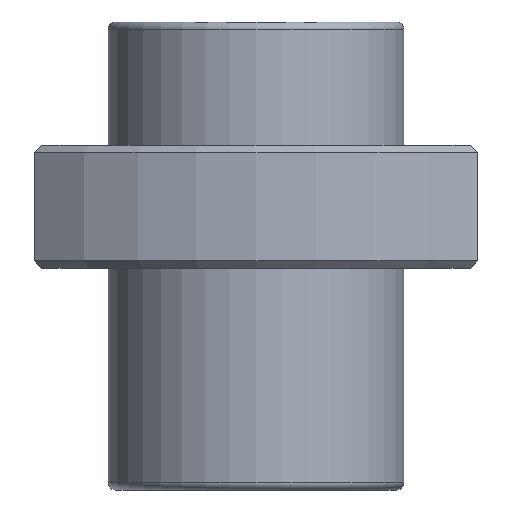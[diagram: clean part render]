
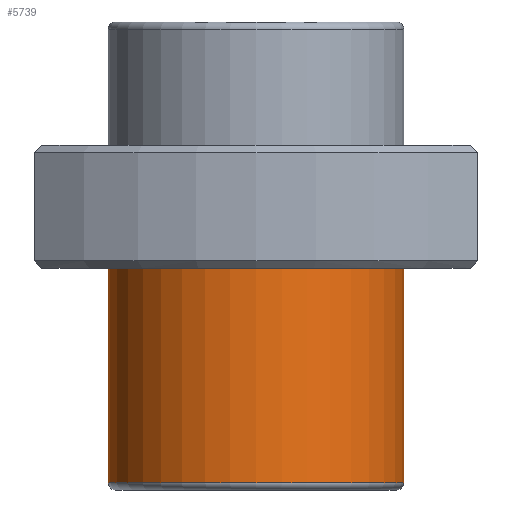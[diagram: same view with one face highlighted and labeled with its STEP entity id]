
A CAD part, front view. The second image highlights one B-rep face of the part: STEP entity #5739.
In plain terms, the highlighted cylindrical face has radius 6 mm (diameter 12 mm), a full revolution.
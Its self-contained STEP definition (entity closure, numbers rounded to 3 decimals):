
#96=CYLINDRICAL_SURFACE('',#6110,6.);
#124=CIRCLE('',#6111,6.);
#125=CIRCLE('',#6112,6.);
#1721=ORIENTED_EDGE('',*,*,#3381,.T.);
#1722=ORIENTED_EDGE('',*,*,#3382,.T.);
#3381=EDGE_CURVE('',#4210,#4210,#124,.T.);
#3382=EDGE_CURVE('',#4211,#4211,#125,.F.);
#4210=VERTEX_POINT('',#9075);
#4211=VERTEX_POINT('',#9077);
#4698=EDGE_LOOP('',(#1721));
#4699=EDGE_LOOP('',(#1722));
#5113=FACE_BOUND('',#4698,.T.);
#5114=FACE_BOUND('',#4699,.T.);
#5739=ADVANCED_FACE('',(#5113,#5114),#96,.T.);
#6110=AXIS2_PLACEMENT_3D('',#9073,#6636,#6637);
#6111=AXIS2_PLACEMENT_3D('',#9074,#6638,#6639);
#6112=AXIS2_PLACEMENT_3D('',#9076,#6640,#6641);
#6636=DIRECTION('',(0.,0.,1.));
#6637=DIRECTION('',(1.,0.,0.));
#6638=DIRECTION('',(0.,0.,1.));
#6639=DIRECTION('',(1.,0.,0.));
#6640=DIRECTION('',(0.,0.,1.));
#6641=DIRECTION('',(1.,0.,0.));
#9073=CARTESIAN_POINT('',(0.,0.,-14.));
#9074=CARTESIAN_POINT('',(0.,0.,-13.7));
#9075=CARTESIAN_POINT('',(6.,0.,-13.7));
#9076=CARTESIAN_POINT('',(0.,0.,-5.));
#9077=CARTESIAN_POINT('',(6.,0.,-5.));
